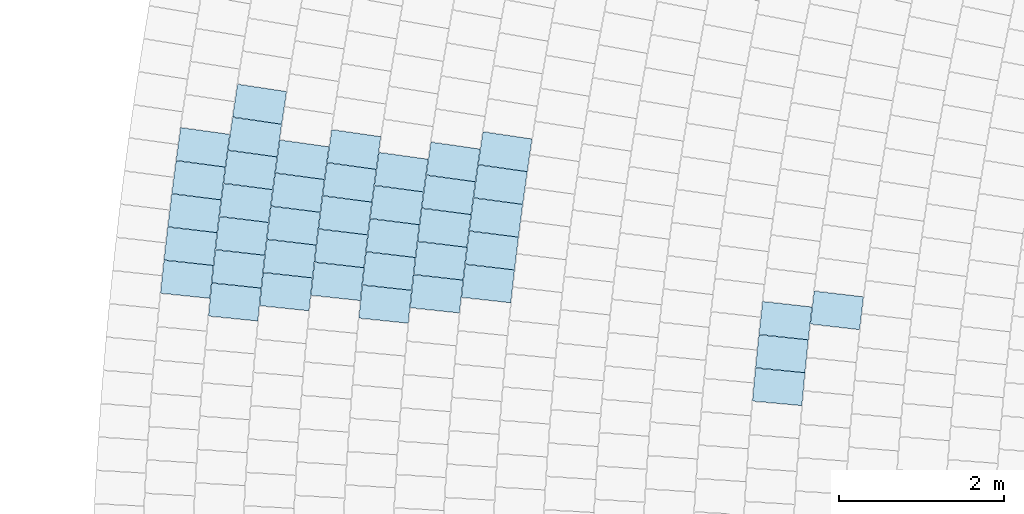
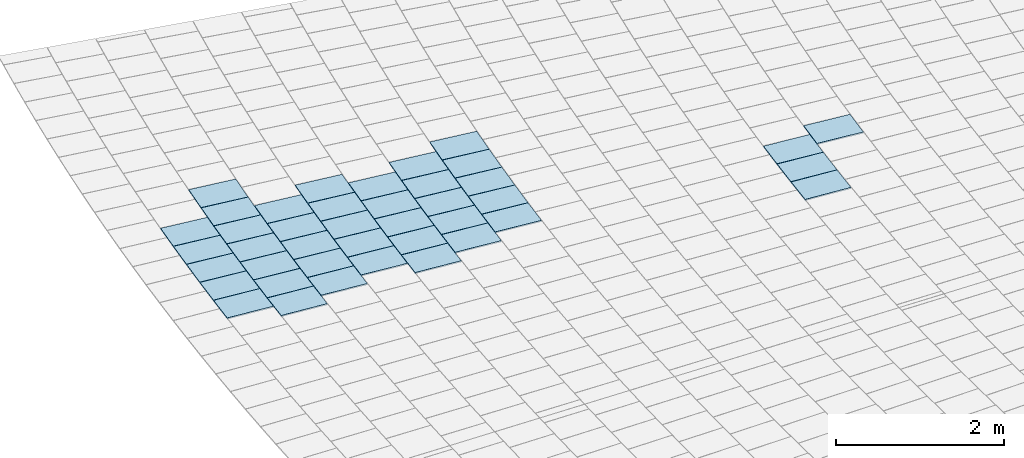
# One storey, part 89 of 438: 41 slabs.
"""IFC2X3 building model written with IfcOpenShell, lengths in millimetres."""

import ifcopenshell
import ifcopenshell.guid

model = None  # the IFC model being written
_history = None  # IfcOwnerHistory: only IFC2X3 demands one
_inside = {}  # id of a spatial element -> (the spatial element, [elements in it])
_under = {}  # id of a project, library or spatial element -> (it, [spatial elements below it])
_declared = {}  # id of a project -> (the project, [libraries it declares])
_typed = {}  # id of a type object -> (the type object, [elements of that type])
_made_of = {}  # id of a material, layer set ... -> (it, [elements and type objects made of it])


def new_model(schema):
    """Start an empty IFC model of exactly this schema.

    Asked for "IFC4X3", IfcOpenShell would pick the latest addendum, in which some entities
    have other attributes; the version numbers below select the first issue.
    IFC2X3 requires an IfcOwnerHistory on every rooted entity: one is made here for all.
    """
    global model, _history
    if schema == "IFC4X3":
        model = ifcopenshell.file(schema_version=(4, 3, 0, 0))
    else:
        model = ifcopenshell.file(schema=schema)
    _inside.clear()
    _under.clear()
    _declared.clear()
    _typed.clear()
    _made_of.clear()
    _history = None
    if model.schema == "IFC2X3":
        org = make("IfcOrganization", Name="unknown")
        user = make(
            "IfcPersonAndOrganization",
            ThePerson=make("IfcPerson", FamilyName="unknown"),
            TheOrganization=org,
        )
        app = make(
            "IfcApplication",
            ApplicationDeveloper=org,
            Version="unknown",
            ApplicationFullName="unknown",
            ApplicationIdentifier="unknown",
        )
        _history = make(
            "IfcOwnerHistory",
            OwningUser=user,
            OwningApplication=app,
            ChangeAction="ADDED",
            CreationDate=0,
        )
    return model


def make(cls, **values):
    """One entity of the class cls with the attributes given. An attribute that is None is left unset."""
    return model.create_entity(
        cls, **{name: value for name, value in values.items() if value is not None}
    )


def entity(cls, *values):
    """Any entity or typed value of the class cls, its attributes in the order of the schema. None: left unset."""
    e = model.create_entity(cls)
    for i, value in enumerate(values):
        if value is not None:
            e[i] = value
    return e


def rooted(cls, **values):
    """An entity with a GlobalId (a new one), such as an element, a storey or a relation."""
    return make(cls, GlobalId=ifcopenshell.guid.new(), OwnerHistory=_history, **values)


def si_unit(unit_type, name, prefix=None):
    """IfcSIUnit, for example si_unit("LENGTHUNIT", "METRE", prefix="MILLI")."""
    return make("IfcSIUnit", UnitType=unit_type, Prefix=prefix, Name=name)


def converted_unit(unit_type, name, factor, base, dimensions=None, offset=None):
    """IfcConversionBasedUnit, such as the inch: factor (a typed value) times the base unit."""
    return make(
        "IfcConversionBasedUnit"
        if offset is None
        else "IfcConversionBasedUnitWithOffset",
        ConversionOffset=offset,
        Dimensions=None
        if dimensions is None
        else entity("IfcDimensionalExponents", *dimensions),
        UnitType=unit_type,
        Name=name,
        ConversionFactor=make(
            "IfcMeasureWithUnit", ValueComponent=factor, UnitComponent=base
        ),
    )


def derived_unit(unit_type, elements):
    """IfcDerivedUnit: a product of units, each with its exponent."""
    return make(
        "IfcDerivedUnit",
        Elements=[
            make("IfcDerivedUnitElement", Unit=unit, Exponent=power)
            for unit, power in elements
        ],
        UnitType=unit_type,
    )


def assignment(units):
    """IfcUnitAssignment: the units of a project."""
    return None if units is None else make("IfcUnitAssignment", Units=units)


def point(xyz):
    """IfcCartesianPoint."""
    return None if xyz is None else make("IfcCartesianPoint", Coordinates=xyz)


def direction(xyz):
    """IfcDirection."""
    return None if xyz is None else make("IfcDirection", DirectionRatios=xyz)


def frame(location, z_axis=None, x_axis=None):
    """IfcAxis2Placement3D, a coordinate frame: its origin and axes. An axis left out is left unset."""
    return make(
        "IfcAxis2Placement3D",
        Location=point(location),
        Axis=direction(z_axis),
        RefDirection=direction(x_axis),
    )


def origin():
    """The frame at (0, 0, 0) with its axes left unset."""
    return frame((0.0, 0.0, 0.0))


def place(relative_to, where):
    """IfcLocalPlacement: puts the frame where relative to a parent placement (None: the world)."""
    return make(
        "IfcLocalPlacement", PlacementRelTo=relative_to, RelativePlacement=where
    )


def context(
    kind, dimensions, precision=None, world=None, true_north=None, identifier=None
):
    """IfcGeometricRepresentationContext, for example the 3D "Model" context."""
    return make(
        "IfcGeometricRepresentationContext",
        ContextIdentifier=identifier,
        ContextType=kind,
        CoordinateSpaceDimension=dimensions,
        Precision=precision,
        WorldCoordinateSystem=world,
        TrueNorth=true_north,
    )


def subcontext(parent, identifier, kind, view, scale=None):
    """IfcGeometricRepresentationSubContext, for example "Body" below "Model"."""
    return make(
        "IfcGeometricRepresentationSubContext",
        ContextIdentifier=identifier,
        ContextType=kind,
        ParentContext=parent,
        TargetScale=scale,
        TargetView=view,
    )


def project(units=None, contexts=None):
    """IfcProject with its units and contexts."""
    return rooted(
        "IfcProject",
        Name="project",
        RepresentationContexts=contexts,
        UnitsInContext=assignment(units),
    )


def spatial(cls, under=None, at=None, **own):
    """A site, building, storey or space (cls), placed at a placement, below another one or the project."""
    s = rooted(cls, ObjectPlacement=at, **own)
    if under is not None:
        _under.setdefault(under.id(), (under, []))[1].append(s)
    return s


def polyline(points):
    """IfcPolyline through the points."""
    return make("IfcPolyline", Points=[point(p) for p in points])


def outline(outer, holes=None, kind="AREA"):
    """IfcArbitraryClosedProfileDef: a profile drawn as a closed curve; with holes, ...WithVoids."""
    if holes is None:
        return make("IfcArbitraryClosedProfileDef", ProfileType=kind, OuterCurve=outer)
    return make(
        "IfcArbitraryProfileDefWithVoids",
        ProfileType=kind,
        OuterCurve=outer,
        InnerCurves=holes,
    )


def extrude(swept, where, along, depth):
    """IfcExtrudedAreaSolid: the profile swept, set in the frame where, extruded along a direction by depth."""
    return make(
        "IfcExtrudedAreaSolid",
        SweptArea=swept,
        Position=where,
        ExtrudedDirection=direction(along),
        Depth=depth,
    )


def shape(context_of_items, identifier, shape_type, items):
    """IfcShapeRepresentation: the items that make up one representation, for example the "Body"."""
    return make(
        "IfcShapeRepresentation",
        ContextOfItems=context_of_items,
        RepresentationIdentifier=identifier,
        RepresentationType=shape_type,
        Items=items,
    )


def material(Name=None, Category=None):
    """IfcMaterial."""
    return make("IfcMaterial", Name=Name, Category=Category)


def layer(
    of_material, thickness, ventilated=None, Name=None, Category=None, Priority=None
):
    """IfcMaterialLayer: one layer of a wall or slab, of a material (None: an air gap)."""
    return make(
        "IfcMaterialLayer",
        Material=of_material,
        LayerThickness=thickness,
        IsVentilated=ventilated,
        Name=Name,
        Category=Category,
        Priority=Priority,
    )


def layer_set(layers, Name=None):
    """IfcMaterialLayerSet."""
    return make("IfcMaterialLayerSet", MaterialLayers=layers, LayerSetName=Name)


def layer_usage(for_layer_set, set_direction, sense, offset, extent=None):
    """IfcMaterialLayerSetUsage: how a layer set lies in its element."""
    return make(
        "IfcMaterialLayerSetUsage",
        ForLayerSet=for_layer_set,
        LayerSetDirection=set_direction,
        DirectionSense=sense,
        OffsetFromReferenceLine=offset,
        ReferenceExtent=extent,
    )


def made_of(thing, what):
    """Note that an element or type object is made of a material, layer set ...; save() writes the relation."""
    if what is not None:
        _made_of.setdefault(what.id(), (what, []))[1].append(thing)
    return thing


def type_object(cls, material=None, **own):
    """A type object (cls), such as IfcWallType, which elements share."""
    return made_of(rooted(cls, **own), material)


def element(
    cls,
    number,
    at=None,
    inside=None,
    cuts=None,
    type_object=None,
    material=None,
    context=None,
    identifier="Body",
    shape_type=None,
    held_by="IfcProductDefinitionShape",
    body=None,
    shapes=None,
    **own,
):
    """One element of the class cls, such as IfcWall. Its Tag is "e" and its number.

    at: its placement. inside: the storey or other place that contains it. cuts: it is an
    opening in that element (IfcRelVoidsElement). A single representation is given by context,
    identifier, shape_type and body (its items); several are given by shapes. held_by: the class
    of the entity that holds the representations. save() writes the other relations.
    """
    e = rooted(cls, Tag="e%d" % number, ObjectPlacement=at, **own)
    if body is not None:
        shapes = [shape(context, identifier, shape_type, body)]
    if shapes is not None:
        e.Representation = make(held_by, Representations=shapes)
    if inside is not None:
        _inside.setdefault(inside.id(), (inside, []))[1].append(e)
    if cuts is not None:
        rooted(
            "IfcRelVoidsElement", RelatingBuildingElement=cuts, RelatedOpeningElement=e
        )
    if type_object is not None:
        _typed.setdefault(type_object.id(), (type_object, []))[1].append(e)
    return made_of(e, material)


def aggregate(whole, parts):
    """IfcRelAggregates: a whole, such as a stair, and the parts it consists of."""
    return rooted("IfcRelAggregates", RelatingObject=whole, RelatedObjects=parts)


def save(model, path):
    """Write the relations noted so far, then the file.

    IfcRelAggregates (storeys below a building ...), IfcRelContainedInSpatialStructure (elements
    in a storey), IfcRelDefinesByType, IfcRelAssociatesMaterial and IfcRelDeclares: one each for
    every whole, place, type object, material and project.
    """
    for whole, parts in _under.values():
        aggregate(whole, parts)
    for where, things in _inside.values():
        rooted(
            "IfcRelContainedInSpatialStructure",
            RelatedElements=things,
            RelatingStructure=where,
        )
    for kind, things in _typed.values():
        rooted("IfcRelDefinesByType", RelatedObjects=things, RelatingType=kind)
    for what, things in _made_of.values():
        rooted("IfcRelAssociatesMaterial", RelatedObjects=things, RelatingMaterial=what)
    for by, libraries in _declared.values():
        rooted("IfcRelDeclares", RelatingContext=by, RelatedDefinitions=libraries)
    model.write(path)


model = new_model("IFC2X3")

# Units and contexts
model_context = context("Model", 3, precision=0.01, world=origin(), true_north=direction((6.123031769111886e-17, 1.0)))
body_context = subcontext(model_context, "Body", "Model", "MODEL_VIEW")
ifc_project = project(units=[si_unit("LENGTHUNIT", "METRE", prefix="MILLI"), si_unit("AREAUNIT", "SQUARE_METRE"), si_unit("VOLUMEUNIT", "CUBIC_METRE"), converted_unit("PLANEANGLEUNIT", "DEGREE", entity("IfcRatioMeasure", 0.017453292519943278), si_unit("PLANEANGLEUNIT", "RADIAN"), dimensions=[0, 0, 0, 0, 0, 0, 0]), si_unit("MASSUNIT", "GRAM", prefix="KILO"), derived_unit("MASSDENSITYUNIT", [(si_unit("MASSUNIT", "GRAM", prefix="KILO"), 1), (si_unit("LENGTHUNIT", "METRE"), -3)]), derived_unit("MOMENTOFINERTIAUNIT", [(si_unit("LENGTHUNIT", "METRE"), 4)]), si_unit("TIMEUNIT", "SECOND"), si_unit("FREQUENCYUNIT", "HERTZ"), si_unit("THERMODYNAMICTEMPERATUREUNIT", "DEGREE_CELSIUS"), derived_unit("THERMALTRANSMITTANCEUNIT", [(si_unit("MASSUNIT", "GRAM", prefix="KILO"), 1), (si_unit("THERMODYNAMICTEMPERATUREUNIT", "KELVIN"), -1), (si_unit("TIMEUNIT", "SECOND"), -3)]), derived_unit("THERMALCONDUCTANCEUNIT", [(si_unit("MASSUNIT", "GRAM", prefix="KILO"), 1), (si_unit("LENGTHUNIT", "METRE"), 1), (si_unit("THERMODYNAMICTEMPERATUREUNIT", "KELVIN"), -1), (si_unit("TIMEUNIT", "SECOND"), -3)]), derived_unit("VOLUMETRICFLOWRATEUNIT", [(si_unit("LENGTHUNIT", "METRE"), 3), (si_unit("TIMEUNIT", "SECOND"), -1)]), derived_unit("MASSFLOWRATEUNIT", [(si_unit("MASSUNIT", "GRAM", prefix="KILO"), 1), (si_unit("TIMEUNIT", "SECOND"), -1)]), derived_unit("ROTATIONALFREQUENCYUNIT", [(si_unit("TIMEUNIT", "SECOND"), -1)]), si_unit("ELECTRICCURRENTUNIT", "AMPERE"), si_unit("ELECTRICVOLTAGEUNIT", "VOLT"), si_unit("POWERUNIT", "WATT"), converted_unit("FORCEUNIT", "KIP", entity("IfcRatioMeasure", 2.088543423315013e-05), si_unit("FORCEUNIT", "NEWTON"), dimensions=[1, 1, -2, 0, 0, 0, 0]), si_unit("ILLUMINANCEUNIT", "LUX"), si_unit("LUMINOUSFLUXUNIT", "LUMEN"), si_unit("LUMINOUSINTENSITYUNIT", "CANDELA"), derived_unit("USERDEFINED", [(si_unit("MASSUNIT", "GRAM", prefix="KILO"), -1), (si_unit("LENGTHUNIT", "METRE"), -2), (si_unit("TIMEUNIT", "SECOND"), 3), (si_unit("LUMINOUSFLUXUNIT", "LUMEN"), 1)]), derived_unit("USERDEFINED", [(si_unit("MASSUNIT", "GRAM", prefix="KILO"), 1), (si_unit("LENGTHUNIT", "METRE"), 3), (si_unit("TIMEUNIT", "SECOND"), -3), (si_unit("ELECTRICCURRENTUNIT", "AMPERE"), -2)]), derived_unit("USERDEFINED", [(si_unit("LENGTHUNIT", "METRE"), 2), (si_unit("TIMEUNIT", "SECOND"), -2)]), derived_unit("SOUNDPOWERUNIT", [(si_unit("MASSUNIT", "GRAM", prefix="KILO"), 1), (si_unit("LENGTHUNIT", "METRE"), 2), (si_unit("TIMEUNIT", "SECOND"), -3)]), derived_unit("SOUNDPRESSUREUNIT", [(si_unit("MASSUNIT", "GRAM", prefix="KILO"), 1), (si_unit("LENGTHUNIT", "METRE"), -1), (si_unit("TIMEUNIT", "SECOND"), -2)]), derived_unit("LINEARVELOCITYUNIT", [(si_unit("LENGTHUNIT", "METRE"), 1), (si_unit("TIMEUNIT", "SECOND"), -1)]), si_unit("PRESSUREUNIT", "PASCAL"), derived_unit("USERDEFINED", [(si_unit("LENGTHUNIT", "METRE"), -2), (si_unit("MASSUNIT", "GRAM", prefix="KILO"), 1), (si_unit("TIMEUNIT", "SECOND"), -2)]), derived_unit("LINEARFORCEUNIT", [(si_unit("MASSUNIT", "GRAM", prefix="KILO"), 1), (si_unit("LENGTHUNIT", "METRE"), 1), (si_unit("TIMEUNIT", "SECOND"), -2), (si_unit("LENGTHUNIT", "METRE"), -1)]), derived_unit("PLANARFORCEUNIT", [(si_unit("MASSUNIT", "GRAM", prefix="KILO"), 1), (si_unit("LENGTHUNIT", "METRE"), 1), (si_unit("TIMEUNIT", "SECOND"), -2), (si_unit("LENGTHUNIT", "METRE"), -2)]), derived_unit("SPECIFICHEATCAPACITYUNIT", [(si_unit("LENGTHUNIT", "METRE"), 2), (si_unit("TIMEUNIT", "SECOND"), -2), (si_unit("THERMODYNAMICTEMPERATUREUNIT", "KELVIN"), -1)]), derived_unit("VAPORPERMEABILITYUNIT", [(si_unit("TIMEUNIT", "SECOND"), 1), (si_unit("LENGTHUNIT", "METRE"), -1)]), derived_unit("DYNAMICVISCOSITYUNIT", [(si_unit("MASSUNIT", "GRAM", prefix="KILO"), 1), (si_unit("LENGTHUNIT", "METRE"), -1), (si_unit("TIMEUNIT", "SECOND"), -1)]), derived_unit("THERMALEXPANSIONCOEFFICIENTUNIT", [(si_unit("THERMODYNAMICTEMPERATUREUNIT", "KELVIN"), -1)])], contexts=[model_context])

# Site, building, storey
site_placement = place(None, frame((0.0, 0.0, 0.0), z_axis=(0.0, 0.0, 1.0), x_axis=(0.8191520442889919, 0.5735764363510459, 0.0)))
site = spatial("IfcSite", under=ifc_project, at=site_placement, Name="Default", CompositionType="ELEMENT")
building_placement = place(site_placement, origin())
building = spatial("IfcBuilding", under=site, at=building_placement, CompositionType="ELEMENT")
storey_placement = place(building_placement, origin())
storey = spatial("IfcBuildingStorey", under=building, at=storey_placement, Name="PLAN", CompositionType="ELEMENT", Elevation=0.0)

# Slabs
ifc_material = material(Name="Paint-01")
ifc_layer = layer(ifc_material, 20.00000000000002)
ifc_layer_set = layer_set([ifc_layer], Name="Floor:Slab-179:1000")
ifc_layer_usage = layer_usage(ifc_layer_set, "AXIS3", "POSITIVE", 0.0)
slab_type = type_object("IfcSlabType", Name="Floor:Slab-179:1000", PredefinedType="FLOOR", material=ifc_layer_set)
slab_1_placement = place(storey_placement, origin())
element("IfcSlab", 1, at=slab_1_placement, inside=storey, type_object=slab_type, material=ifc_layer_usage, Name="Floor:Slab-179:1000", ObjectType="Floor:Slab-179:1000", PredefinedType="FLOOR", context=body_context, shape_type="SweptSolid", body=[
    extrude(outline(polyline([(-300.0, -200.00000294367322), (299.9999976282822, -200.00000294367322), (300.0, 200.00000294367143), (-299.99999762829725, 200.00000294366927), (-300.0, -200.00000294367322)])), frame((-72972.39538421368, -38939.58154251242, 520.0), z_axis=(0.0, 0.0, -1.0), x_axis=(0.7475736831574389, -0.664178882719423, 0.0)), (0.0, 0.0, 1.0), 19.99999999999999),
])
slab_2_placement = place(storey_placement, origin())
element("IfcSlab", 2, at=slab_2_placement, inside=storey, type_object=slab_type, material=ifc_layer_usage, Name="Floor:Slab-179:1000", ObjectType="Floor:Slab-179:1000", PredefinedType="FLOOR", context=body_context, shape_type="SweptSolid", body=[
    extrude(outline(polyline([(-300.0, -200.00000294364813), (299.9999976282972, -200.00000294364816), (300.0, 200.00000294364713), (-299.99999762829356, 200.00000294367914), (-300.0, -200.00000294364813)])), frame((-74081.11828719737, -39293.65766892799, 520.0), z_axis=(0.0, 0.0, -1.0), x_axis=(0.7623984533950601, -0.6471078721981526, 0.0)), (0.0, 0.0, 1.0), 19.99999999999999),
])
slab_3_placement = place(storey_placement, origin())
element("IfcSlab", 3, at=slab_3_placement, inside=storey, type_object=slab_type, material=ifc_layer_usage, Name="Floor:Slab-179:1000", ObjectType="Floor:Slab-179:1000", PredefinedType="FLOOR", context=body_context, shape_type="SweptSolid", body=[
    extrude(outline(polyline([(-300.0, -200.0000029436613), (299.99999762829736, -200.0000029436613), (300.0, 200.00000294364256), (-299.9999976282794, 200.00000294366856), (-300.0, -200.0000029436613)])), frame((-73554.34818906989, -38684.35686348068, 520.0), z_axis=(0.0, 0.0, -1.0), x_axis=(0.7505021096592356, -0.6608680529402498, 0.0)), (0.0, 0.0, 1.0), 20.000000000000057),
])
slab_4_placement = place(storey_placement, origin())
element("IfcSlab", 4, at=slab_4_placement, inside=storey, type_object=slab_type, material=ifc_layer_usage, Name="Floor:Slab-179:1000", ObjectType="Floor:Slab-179:1000", PredefinedType="FLOOR", context=body_context, shape_type="SweptSolid", body=[
    extrude(outline(polyline([(-300.0, -200.0000029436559), (299.9999976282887, -200.00000294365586), (300.0, 200.00000294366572), (-299.9999976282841, 200.0000029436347), (-300.0, -200.0000029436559)])), frame((-73819.118642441, -38987.80951698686, 520.0), z_axis=(0.0, 0.0, -1.0), x_axis=(0.7564815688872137, -0.6540150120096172, 0.0)), (0.0, 0.0, 1.0), 20.000000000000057),
])
slab_5_placement = place(storey_placement, origin())
element("IfcSlab", 5, at=slab_5_placement, inside=storey, type_object=slab_type, material=ifc_layer_usage, Name="Floor:Slab-179:1000", ObjectType="Floor:Slab-179:1000", PredefinedType="FLOOR", context=body_context, shape_type="SweptSolid", body=[
    extrude(outline(polyline([(-300.0, -200.00000294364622), (299.9999976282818, -200.0000029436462), (300.0, 200.00000294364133), (-299.99999762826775, 200.00000294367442), (-300.0, -200.00000294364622)])), frame((-75709.78253270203, -35650.828610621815, 520.0), z_axis=(0.0, 0.0, -1.0), x_axis=(0.7386280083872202, -0.6741132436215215, 0.0)), (0.0, 0.0, 1.0), 20.000000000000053),
])
slab_6_placement = place(storey_placement, origin())
element("IfcSlab", 6, at=slab_6_placement, inside=storey, type_object=slab_type, material=ifc_layer_usage, Name="Floor:Slab-179:1000", ObjectType="Floor:Slab-179:1000", PredefinedType="FLOOR", context=body_context, shape_type="SweptSolid", body=[
    extrude(outline(polyline([(-300.0, -200.00000294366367), (299.9999976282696, -200.00000294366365), (300.0, 200.00000294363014), (-299.9999976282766, 200.00000294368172), (-300.0, -200.00000294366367)])), frame((-76606.96971733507, -34838.92919221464, 520.0), z_axis=(0.0, 0.0, -1.0), x_axis=(0.7386981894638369, -0.6740363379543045, 0.0)), (0.0, 0.0, 1.0), 19.99999999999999),
])
slab_7_placement = place(storey_placement, origin())
element("IfcSlab", 7, at=slab_7_placement, inside=storey, type_object=slab_type, material=ifc_layer_usage, Name="Floor:Slab-179:1000", ObjectType="Floor:Slab-179:1000", PredefinedType="FLOOR", context=body_context, shape_type="SweptSolid", body=[
    extrude(outline(polyline([(-300.0, -200.0000029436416), (299.9999976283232, -200.00000294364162), (300.0, 200.00000294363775), (-299.99999762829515, 200.0000029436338), (-300.0, -200.0000029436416)])), frame((-77190.87899994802, -34581.8955528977, 520.0), z_axis=(0.0, 0.0, -1.0), x_axis=(0.7414532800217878, -0.6710044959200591, 0.0)), (0.0, 0.0, 1.0), 19.99999999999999),
])
slab_8_placement = place(storey_placement, origin())
element("IfcSlab", 8, at=slab_8_placement, inside=storey, type_object=slab_type, material=ifc_layer_usage, Name="Floor:Slab-179:1000", ObjectType="Floor:Slab-179:1000", PredefinedType="FLOOR", context=body_context, shape_type="SweptSolid", body=[
    extrude(outline(polyline([(-300.0, -200.00000294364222), (299.99999762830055, -200.0000029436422), (300.0, 200.00000294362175), (-299.9999976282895, 200.0000029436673), (-300.0, -200.00000294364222)])), frame((-78088.03746877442, -33769.980112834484, 520.0), z_axis=(0.0, 0.0, -1.0), x_axis=(0.7414532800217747, -0.6710044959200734, 0.0)), (0.0, 0.0, 1.0), 20.000000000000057),
])
slab_9_placement = place(storey_placement, origin())
element("IfcSlab", 9, at=slab_9_placement, inside=storey, type_object=slab_type, material=ifc_layer_usage, Name="Floor:Slab-179:1000", ObjectType="Floor:Slab-179:1000", PredefinedType="FLOOR", context=body_context, shape_type="SweptSolid", body=[
    extrude(outline(polyline([(-300.0, -200.000002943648), (299.9999976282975, -200.000002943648), (300.0, 200.00000294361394), (-299.99999762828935, 200.0000029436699), (-300.0, -200.000002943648)])), frame((-76293.72053112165, -35393.810992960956, 520.0), z_axis=(0.0, 0.0, -1.0), x_axis=(0.7414532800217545, -0.6710044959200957, 0.0)), (0.0, 0.0, 1.0), 20.000000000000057),
])
slab_10_placement = place(storey_placement, origin())
element("IfcSlab", 10, at=slab_10_placement, inside=storey, type_object=slab_type, material=ifc_layer_usage, Name="Floor:Slab-179:1000", ObjectType="Floor:Slab-179:1000", PredefinedType="FLOOR", context=body_context, shape_type="SweptSolid", body=[
    extrude(outline(polyline([(-300.0, -200.00000294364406), (299.99999762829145, -200.00000294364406), (300.0, 200.00000294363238), (-299.99999762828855, 200.00000294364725), (-300.0, -200.00000294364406)])), frame((-78401.34001553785, -33215.12809545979, 520.0), z_axis=(0.0, 0.0, -1.0), x_axis=(0.7388285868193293, -0.6738934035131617, 0.0)), (0.0, 0.0, 1.0), 20.000000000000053),
])
slab_11_placement = place(storey_placement, origin())
element("IfcSlab", 11, at=slab_11_placement, inside=storey, type_object=slab_type, material=ifc_layer_usage, Name="Floor:Slab-179:1000", ObjectType="Floor:Slab-179:1000", PredefinedType="FLOOR", context=body_context, shape_type="SweptSolid", body=[
    extrude(outline(polyline([(-300.0, -200.00000294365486), (299.99999762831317, -200.0000029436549), (300.0, 200.00000294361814), (-299.99999762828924, 200.00000294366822), (-300.0, -200.00000294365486)])), frame((-77504.15551210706, -34027.02900235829, 520.0), z_axis=(0.0, 0.0, -1.0), x_axis=(0.7387649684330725, -0.673963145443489, 0.0)), (0.0, 0.0, 1.0), 20.000000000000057),
])
slab_12_placement = place(storey_placement, origin())
element("IfcSlab", 12, at=slab_12_placement, inside=storey, type_object=slab_type, material=ifc_layer_usage, Name="Floor:Slab-179:1000", ObjectType="Floor:Slab-179:1000", PredefinedType="FLOOR", context=body_context, shape_type="SweptSolid", body=[
    extrude(outline(polyline([(-300.0, -200.00000294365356), (299.99999762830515, -200.00000294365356), (300.0, 200.0000029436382), (-299.9999976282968, 200.00000294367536), (-300.0, -200.00000294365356)])), frame((-75437.19400183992, -35354.660796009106, 520.0), z_axis=(0.0, 0.0, -1.0), x_axis=(0.7329384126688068, -0.6802949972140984, 0.0)), (0.0, 0.0, 1.0), 19.999999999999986),
])
slab_13_placement = place(storey_placement, origin())
element("IfcSlab", 13, at=slab_13_placement, inside=storey, type_object=slab_type, material=ifc_layer_usage, Name="Floor:Slab-179:1000", ObjectType="Floor:Slab-179:1000", PredefinedType="FLOOR", context=body_context, shape_type="SweptSolid", body=[
    extrude(outline(polyline([(-300.0, -200.00000294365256), (299.9999976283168, -200.0000029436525), (300.0, 200.00000294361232), (-299.9999976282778, 200.0000029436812), (-300.0, -200.00000294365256)])), frame((-75162.12685284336, -35060.79357239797, 520.0), z_axis=(0.0, 0.0, -1.0), x_axis=(0.7271970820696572, -0.6864287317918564, 0.0)), (0.0, 0.0, 1.0), 20.000000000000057),
])
slab_14_placement = place(storey_placement, origin())
element("IfcSlab", 14, at=slab_14_placement, inside=storey, type_object=slab_type, material=ifc_layer_usage, Name="Floor:Slab-179:1000", ObjectType="Floor:Slab-179:1000", PredefinedType="FLOOR", context=body_context, shape_type="SweptSolid", body=[
    extrude(outline(polyline([(-299.9999976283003, -200.0000029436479), (300.0, -200.0000029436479), (299.9999976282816, 200.00000294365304), (-300.0, 200.00000294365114), (-299.9999976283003, -200.0000029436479)])), frame((-75979.87320461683, -35949.27611106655, 520.0), z_axis=(0.0, 0.0, -1.0), x_axis=(0.7442654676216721, -0.6678839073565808, 0.0)), (0.0, 0.0, 1.0), 20.000000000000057),
])
slab_15_placement = place(storey_placement, origin())
element("IfcSlab", 15, at=slab_15_placement, inside=storey, type_object=slab_type, material=ifc_layer_usage, Name="Floor:Slab-179:1000", ObjectType="Floor:Slab-179:1000", PredefinedType="FLOOR", context=body_context, shape_type="SweptSolid", body=[
    extrude(outline(polyline([(-299.99999762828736, -200.00000294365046), (300.0, -200.00000294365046), (299.9999976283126, 200.00000294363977), (-300.0, 200.0000029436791), (-299.99999762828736, -200.00000294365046)])), frame((-76247.44695306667, -36249.98223124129, 520.0), z_axis=(0.0, 0.0, -1.0), x_axis=(0.7498503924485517, -0.6616074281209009, 0.0)), (0.0, 0.0, 1.0), 20.000000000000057),
])
slab_16_placement = place(storey_placement, origin())
element("IfcSlab", 16, at=slab_16_placement, inside=storey, type_object=slab_type, material=ifc_layer_usage, Name="Floor:Slab-179:1000", ObjectType="Floor:Slab-179:1000", PredefinedType="FLOOR", context=body_context, shape_type="SweptSolid", body=[
    extrude(outline(polyline([(-300.0, -200.0000029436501), (299.99999762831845, -200.00000294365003), (300.0, 200.00000294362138), (-299.999997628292, 200.0000029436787), (-300.0, -200.0000029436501)])), frame((-76022.41546636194, -35096.509706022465, 520.0), z_axis=(0.0, 0.0, -1.0), x_axis=(0.7358610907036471, -0.6771325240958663, 0.0)), (0.0, 0.0, 1.0), 19.99999999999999),
])
slab_17_placement = place(storey_placement, origin())
element("IfcSlab", 17, at=slab_17_placement, inside=storey, type_object=slab_type, material=ifc_layer_usage, Name="Floor:Slab-179:1000", ObjectType="Floor:Slab-179:1000", PredefinedType="FLOOR", context=body_context, shape_type="SweptSolid", body=[
    extrude(outline(polyline([(-300.0, -200.00000294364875), (299.9999976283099, -200.00000294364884), (300.0, 200.0000029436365), (-299.99999762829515, 200.00000294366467), (-300.0, -200.00000294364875)])), frame((-75748.65331730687, -34801.469405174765, 520.0), z_axis=(0.0, 0.0, -1.0), x_axis=(0.7302182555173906, -0.6832139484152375, 0.0)), (0.0, 0.0, 1.0), 19.99999999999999),
])
slab_18_placement = place(storey_placement, origin())
element("IfcSlab", 18, at=slab_18_placement, inside=storey, type_object=slab_type, material=ifc_layer_usage, Name="Floor:Slab-179:1000", ObjectType="Floor:Slab-179:1000", PredefinedType="FLOOR", context=body_context, shape_type="SweptSolid", body=[
    extrude(outline(polyline([(-299.9999976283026, -200.00000294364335), (300.0, -200.00000294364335), (299.999997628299, 200.00000294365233), (-300.0, 200.00000294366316), (-299.9999976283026, -200.00000294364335)])), frame((-76562.54983893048, -35693.35280413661, 520.0), z_axis=(0.0, 0.0, -1.0), x_axis=(0.7469944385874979, -0.6648302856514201, 0.0)), (0.0, 0.0, 1.0), 19.99999999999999),
])
slab_19_placement = place(storey_placement, origin())
element("IfcSlab", 19, at=slab_19_placement, inside=storey, type_object=slab_type, material=ifc_layer_usage, Name="Floor:Slab-179:1000", ObjectType="Floor:Slab-179:1000", PredefinedType="FLOOR", context=body_context, shape_type="SweptSolid", body=[
    extrude(outline(polyline([(-299.99999762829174, -200.00000294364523), (300.0, -200.00000294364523), (299.999997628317, 200.00000294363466), (-300.0, 200.00000294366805), (-299.99999762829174, -200.00000294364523)])), frame((-76828.8848875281, -35995.11452349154, 520.0), z_axis=(0.0, 0.0, -1.0), x_axis=(0.752484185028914, -0.6586103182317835, 0.0)), (0.0, 0.0, 1.0), 20.000000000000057),
])
slab_20_placement = place(storey_placement, origin())
element("IfcSlab", 20, at=slab_20_placement, inside=storey, type_object=slab_type, material=ifc_layer_usage, Name="Floor:Slab-179:1000", ObjectType="Floor:Slab-179:1000", PredefinedType="FLOOR", context=body_context, shape_type="SweptSolid", body=[
    extrude(outline(polyline([(-300.0, -200.0000029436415), (299.9999976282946, -200.00000294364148), (300.0, 200.00000294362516), (-299.9999976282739, 200.0000029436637), (-300.0, -200.0000029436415)])), frame((-76334.48504080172, -34542.75046825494, 520.0), z_axis=(0.0, 0.0, -1.0), x_axis=(0.7331508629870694, -0.6800660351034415, 0.0)), (0.0, 0.0, 1.0), 20.000000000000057),
])
slab_21_placement = place(storey_placement, origin())
element("IfcSlab", 21, at=slab_21_placement, inside=storey, type_object=slab_type, material=ifc_layer_usage, Name="Floor:Slab-179:1000", ObjectType="Floor:Slab-179:1000", PredefinedType="FLOOR", context=body_context, shape_type="SweptSolid", body=[
    extrude(outline(polyline([(-299.99999762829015, -200.00000294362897), (300.0, -200.000002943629), (299.9999976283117, 200.00000294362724), (-300.0, 200.00000294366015), (-299.99999762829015, -200.00000294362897)])), frame((-77144.61352647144, -35437.934370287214, 520.0), z_axis=(0.0, 0.0, -1.0), x_axis=(0.7496437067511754, -0.661841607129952, 0.0)), (0.0, 0.0, 1.0), 20.000000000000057),
])
slab_22_placement = place(storey_placement, origin())
element("IfcSlab", 22, at=slab_22_placement, inside=storey, type_object=slab_type, material=ifc_layer_usage, Name="Floor:Slab-179:1000", ObjectType="Floor:Slab-179:1000", PredefinedType="FLOOR", context=body_context, shape_type="SweptSolid", body=[
    extrude(outline(polyline([(-299.9999976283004, -200.00000294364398), (300.0, -200.00000294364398), (299.9999976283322, 200.00000294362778), (-300.0, 200.00000294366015), (-299.9999976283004, -200.00000294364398)])), frame((-77409.73656699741, -35740.72061312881, 520.0), z_axis=(0.0, 0.0, -1.0), x_axis=(0.7550411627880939, -0.6556773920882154, 0.0)), (0.0, 0.0, 1.0), 19.999999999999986),
])
slab_23_placement = place(storey_placement, origin())
element("IfcSlab", 23, at=slab_23_placement, inside=storey, type_object=slab_type, material=ifc_layer_usage, Name="Floor:Slab-179:1000", ObjectType="Floor:Slab-179:1000", PredefinedType="FLOOR", context=body_context, shape_type="SweptSolid", body=[
    extrude(outline(polyline([(-299.99999762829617, -200.0000029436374), (300.0, -200.0000029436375), (299.9999976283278, 200.00000294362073), (-300.0, 200.00000294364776), (-299.99999762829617, -200.0000029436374)])), frame((-76877.01858869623, -35137.33050346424, 520.0), z_axis=(0.0, 0.0, -1.0), x_axis=(0.7441959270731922, -0.6679613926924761, 0.0)), (0.0, 0.0, 1.0), 19.999999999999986),
])
slab_24_placement = place(storey_placement, origin())
element("IfcSlab", 24, at=slab_24_placement, inside=storey, type_object=slab_type, material=ifc_layer_usage, Name="Floor:Slab-179:1000", ObjectType="Floor:Slab-179:1000", PredefinedType="FLOOR", context=body_context, shape_type="SweptSolid", body=[
    extrude(outline(polyline([(-300.0, -200.00000294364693), (299.99999762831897, -200.00000294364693), (300.0, 200.00000294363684), (-299.999997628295, 200.00000294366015), (-300.0, -200.00000294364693)])), frame((-76919.64508167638, -34284.61160404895, 520.0), z_axis=(0.0, 0.0, -1.0), x_axis=(0.7359986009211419, -0.6769830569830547, 0.0)), (0.0, 0.0, 1.0), 20.000000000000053),
])
slab_25_placement = place(storey_placement, origin())
element("IfcSlab", 25, at=slab_25_placement, inside=storey, type_object=slab_type, material=ifc_layer_usage, Name="Floor:Slab-179:1000", ObjectType="Floor:Slab-179:1000", PredefinedType="FLOOR", context=body_context, shape_type="SweptSolid", body=[
    extrude(outline(polyline([(-300.0, -200.00000294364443), (299.9999976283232, -200.00000294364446), (300.0, 200.00000294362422), (-299.9999976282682, 200.00000294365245), (-300.0, -200.00000294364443)])), frame((-76646.01414533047, -33989.53247002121, 520.0), z_axis=(0.0, 0.0, -1.0), x_axis=(0.7304957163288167, -0.6829172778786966, 0.0)), (0.0, 0.0, 1.0), 20.000000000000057),
])
slab_26_placement = place(storey_placement, origin())
element("IfcSlab", 26, at=slab_26_placement, inside=storey, type_object=slab_type, material=ifc_layer_usage, Name="Floor:Slab-179:1000", ObjectType="Floor:Slab-179:1000", PredefinedType="FLOOR", context=body_context, shape_type="SweptSolid", body=[
    extrude(outline(polyline([(-299.99999762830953, -200.00000294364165), (300.0, -200.00000294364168), (299.9999976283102, 200.00000294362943), (-300.0, 200.00000294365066), (-299.99999762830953, -200.00000294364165)])), frame((-77459.69813521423, -34881.36484544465, 520.0), z_axis=(0.0, 0.0, -1.0), x_axis=(0.746859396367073, -0.6649819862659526, 0.0)), (0.0, 0.0, 1.0), 19.999999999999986),
])
slab_27_placement = place(storey_placement, origin())
element("IfcSlab", 27, at=slab_27_placement, inside=storey, type_object=slab_type, material=ifc_layer_usage, Name="Floor:Slab-179:1000", ObjectType="Floor:Slab-179:1000", PredefinedType="FLOOR", context=body_context, shape_type="SweptSolid", body=[
    extrude(outline(polyline([(-299.9999976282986, -200.0000029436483), (300.0, -200.00000294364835), (299.99999762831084, 200.0000029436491), (-300.0, 200.0000029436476), (-299.9999976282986, -200.0000029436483)])), frame((-77726.08488070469, -35182.999867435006, 520.0), z_axis=(0.0, 0.0, -1.0), x_axis=(0.752216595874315, -0.6589159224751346, 0.0)), (0.0, 0.0, 1.0), 19.99999999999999),
])
slab_28_placement = place(storey_placement, origin())
element("IfcSlab", 28, at=slab_28_placement, inside=storey, type_object=slab_type, material=ifc_layer_usage, Name="Floor:Slab-179:1000", ObjectType="Floor:Slab-179:1000", PredefinedType="FLOOR", context=body_context, shape_type="SweptSolid", body=[
    extrude(outline(polyline([(-300.0, -200.0000029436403), (299.999997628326, -200.00000294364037), (300.0, 200.00000294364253), (-299.99999762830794, 200.0000029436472), (-300.0, -200.0000029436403)])), frame((-77231.7696624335, -33730.83992795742, 520.0), z_axis=(0.0, 0.0, -1.0), x_axis=(0.7333529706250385, -0.6798480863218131, 0.0)), (0.0, 0.0, 1.0), 20.000000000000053),
])
slab_29_placement = place(storey_placement, origin())
element("IfcSlab", 29, at=slab_29_placement, inside=storey, type_object=slab_type, material=ifc_layer_usage, Name="Floor:Slab-179:1000", ObjectType="Floor:Slab-179:1000", PredefinedType="FLOOR", context=body_context, shape_type="SweptSolid", body=[
    extrude(outline(polyline([(-299.9999976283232, -200.00000294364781), (300.0, -200.00000294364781), (299.9999976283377, 200.00000294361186), (-300.0, 200.00000294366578), (-299.9999976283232, -200.00000294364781)])), frame((-78041.77967280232, -34625.892915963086, 520.0), z_axis=(0.0, 0.0, -1.0), x_axis=(0.7494469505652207, -0.6620643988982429, 0.0)), (0.0, 0.0, 1.0), 20.000000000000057),
])
slab_30_placement = place(storey_placement, origin())
element("IfcSlab", 30, at=slab_30_placement, inside=storey, type_object=slab_type, material=ifc_layer_usage, Name="Floor:Slab-179:1000", ObjectType="Floor:Slab-179:1000", PredefinedType="FLOOR", context=body_context, shape_type="SweptSolid", body=[
    extrude(outline(polyline([(-299.99999762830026, -200.00000294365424), (300.0, -200.00000294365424), (299.999997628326, 200.0000029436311), (-300.0, 200.0000029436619), (-299.99999762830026, -200.00000294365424)])), frame((-77774.16460209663, -34325.3863555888, 520.0), z_axis=(0.0, 0.0, -1.0), x_axis=(0.7441297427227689, -0.6680351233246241, 0.0)), (0.0, 0.0, 1.0), 20.000000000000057),
])
slab_31_placement = place(storey_placement, origin())
element("IfcSlab", 31, at=slab_31_placement, inside=storey, type_object=slab_type, material=ifc_layer_usage, Name="Floor:Slab-179:1000", ObjectType="Floor:Slab-179:1000", PredefinedType="FLOOR", context=body_context, shape_type="SweptSolid", body=[
    extrude(outline(polyline([(-299.99999762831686, -200.00000294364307), (300.0, -200.0000029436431), (299.99999762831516, 200.00000294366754), (-300.0, 200.00000294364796), (-299.99999762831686, -200.00000294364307)])), frame((-78306.98361767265, -34928.529474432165, 520.0), z_axis=(0.0, 0.0, -1.0), x_axis=(0.7547162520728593, -0.6560513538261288, 0.0)), (0.0, 0.0, 1.0), 20.000000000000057),
])
slab_32_placement = place(storey_placement, origin())
element("IfcSlab", 32, at=slab_32_placement, inside=storey, type_object=slab_type, material=ifc_layer_usage, Name="Floor:Slab-179:1000", ObjectType="Floor:Slab-179:1000", PredefinedType="FLOOR", context=body_context, shape_type="SweptSolid", body=[
    extrude(outline(polyline([(-300.0, -200.00000294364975), (299.9999976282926, -200.00000294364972), (300.0, 200.0000029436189), (-299.9999976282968, 200.00000294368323), (-300.0, -200.00000294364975)])), frame((-77543.36529987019, -33177.59662727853, 520.0), z_axis=(0.0, 0.0, -1.0), x_axis=(0.73075980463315, -0.6826346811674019, 0.0)), (0.0, 0.0, 1.0), 19.999999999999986),
])
slab_33_placement = place(storey_placement, origin())
element("IfcSlab", 33, at=slab_33_placement, inside=storey, type_object=slab_type, material=ifc_layer_usage, Name="Floor:Slab-179:1000", ObjectType="Floor:Slab-179:1000", PredefinedType="FLOOR", context=body_context, shape_type="SweptSolid", body=[
    extrude(outline(polyline([(-300.0, -200.00000294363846), (299.9999976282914, -200.00000294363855), (300.0, 200.00000294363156), (-299.9999976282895, 200.00000294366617), (-300.0, -200.00000294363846)])), frame((-77816.87129346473, -33472.712686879, 520.0), z_axis=(0.0, 0.0, -1.0), x_axis=(0.7361295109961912, -0.6768407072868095, 0.0)), (0.0, 0.0, 1.0), 19.99999999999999),
])
slab_34_placement = place(storey_placement, origin())
element("IfcSlab", 34, at=slab_34_placement, inside=storey, type_object=slab_type, material=ifc_layer_usage, Name="Floor:Slab-179:1000", ObjectType="Floor:Slab-179:1000", PredefinedType="FLOOR", context=body_context, shape_type="SweptSolid", body=[
    extrude(outline(polyline([(-300.0, -200.00000294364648), (299.99999762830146, -200.00000294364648), (300.0, 200.000002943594), (-299.9999976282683, 200.00000294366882), (-300.0, -200.00000294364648)])), frame((-77267.53655582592, -32884.65035042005, 520.0), z_axis=(0.0, 0.0, -1.0), x_axis=(0.7253444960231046, -0.6883860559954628, 0.0)), (0.0, 0.0, 1.0), 20.000000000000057),
])
slab_35_placement = place(storey_placement, origin())
element("IfcSlab", 35, at=slab_35_placement, inside=storey, type_object=slab_type, material=ifc_layer_usage, Name="Floor:Slab-179:1000", ObjectType="Floor:Slab-179:1000", PredefinedType="FLOOR", context=body_context, shape_type="SweptSolid", body=[
    extrude(outline(polyline([(-299.99999762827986, -200.00000294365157), (300.0, -200.00000294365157), (299.9999976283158, 200.00000294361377), (-300.0, 200.00000294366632), (-299.99999762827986, -200.00000294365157)])), frame((-78356.84690397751, -34069.38035450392, 520.0), z_axis=(0.0, 0.0, -1.0), x_axis=(0.7467307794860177, -0.6651264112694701, 0.0)), (0.0, 0.0, 1.0), 20.000000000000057),
])
slab_36_placement = place(storey_placement, origin())
element("IfcSlab", 36, at=slab_36_placement, inside=storey, type_object=slab_type, material=ifc_layer_usage, Name="Floor:Slab-179:1000", ObjectType="Floor:Slab-179:1000", PredefinedType="FLOOR", context=body_context, shape_type="SweptSolid", body=[
    extrude(outline(polyline([(-299.9999976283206, -200.0000029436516), (300.0, -200.00000294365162), (299.9999976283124, 200.00000294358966), (-300.0, 200.00000294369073), (-299.9999976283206, -200.0000029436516)])), frame((-78623.28282432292, -34370.89472815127, 520.0), z_axis=(0.0, 0.0, -1.0), x_axis=(0.7519616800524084, -0.659206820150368, 0.0)), (0.0, 0.0, 1.0), 19.99999999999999),
])
slab_37_placement = place(storey_placement, origin())
element("IfcSlab", 37, at=slab_37_placement, inside=storey, type_object=slab_type, material=ifc_layer_usage, Name="Floor:Slab-179:1000", ObjectType="Floor:Slab-179:1000", PredefinedType="FLOOR", context=body_context, shape_type="SweptSolid", body=[
    extrude(outline(polyline([(-299.99999762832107, -200.00000294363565), (300.0, -200.00000294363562), (299.9999976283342, 200.00000294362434), (-300.0, 200.00000294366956), (-299.99999762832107, -200.00000294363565)])), frame((-78887.32860317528, -34674.50441810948, 520.0), z_axis=(0.0, 0.0, -1.0), x_axis=(0.7571456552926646, -0.6532460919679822, 0.0)), (0.0, 0.0, 1.0), 20.000000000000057),
])
slab_38_placement = place(storey_placement, origin())
element("IfcSlab", 38, at=slab_38_placement, inside=storey, type_object=slab_type, material=ifc_layer_usage, Name="Floor:Slab-179:1000", ObjectType="Floor:Slab-179:1000", PredefinedType="FLOOR", context=body_context, shape_type="SweptSolid", body=[
    extrude(outline(polyline([(-300.0, -200.0000029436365), (299.9999976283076, -200.0000029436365), (300.0, 200.00000294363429), (-299.99999762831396, 200.0000029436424), (-300.0, -200.0000029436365)])), frame((-78129.04832167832, -32918.92918776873, 520.0), z_axis=(0.0, 0.0, -1.0), x_axis=(0.7335454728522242, -0.6796403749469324, 0.0)), (0.0, 0.0, 1.0), 20.000000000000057),
])
slab_39_placement = place(storey_placement, origin())
element("IfcSlab", 39, at=slab_39_placement, inside=storey, type_object=slab_type, material=ifc_layer_usage, Name="Floor:Slab-179:1000", ObjectType="Floor:Slab-179:1000", PredefinedType="FLOOR", context=body_context, shape_type="SweptSolid", body=[
    extrude(outline(polyline([(-299.99999762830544, -200.00000294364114), (300.0, -200.00000294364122), (299.9999976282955, 200.00000294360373), (-300.0, 200.00000294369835), (-299.99999762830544, -200.00000294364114)])), frame((-78938.94542473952, -33813.85741432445, 520.0), z_axis=(0.0, 0.0, -1.0), x_axis=(0.7492594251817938, -0.6622766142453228, 0.0)), (0.0, 0.0, 1.0), 19.99999999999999),
])
slab_40_placement = place(storey_placement, origin())
element("IfcSlab", 40, at=slab_40_placement, inside=storey, type_object=slab_type, material=ifc_layer_usage, Name="Floor:Slab-179:1000", ObjectType="Floor:Slab-179:1000", PredefinedType="FLOOR", context=body_context, shape_type="SweptSolid", body=[
    extrude(outline(polyline([(-299.9999976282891, -200.0000029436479), (300.0, -200.00000294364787), (299.99999762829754, 200.0000029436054), (-300.0, 200.0000029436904), (-299.9999976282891, -200.0000029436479)])), frame((-78671.31120048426, -33513.443563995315, 520.0), z_axis=(0.0, 0.0, -1.0), x_axis=(0.7440666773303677, -0.6681053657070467, 0.0)), (0.0, 0.0, 1.0), 20.000000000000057),
])
slab_41_placement = place(storey_placement, origin())
element("IfcSlab", 41, at=slab_41_placement, inside=storey, type_object=slab_type, material=ifc_layer_usage, Name="Floor:Slab-179:1000", ObjectType="Floor:Slab-179:1000", PredefinedType="FLOOR", context=body_context, shape_type="SweptSolid", body=[
    extrude(outline(polyline([(-299.99999762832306, -200.00000294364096), (300.0, -200.0000029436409), (299.999997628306, 200.00000294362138), (-300.0, 200.00000294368), (-299.99999762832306, -200.00000294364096)])), frame((-79204.22637895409, -34116.35133954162, 520.0), z_axis=(0.0, 0.0, -1.0), x_axis=(0.7544065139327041, -0.6564075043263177, 0.0)), (0.0, 0.0, 1.0), 20.000000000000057),
])

save(model, "model.ifc")
